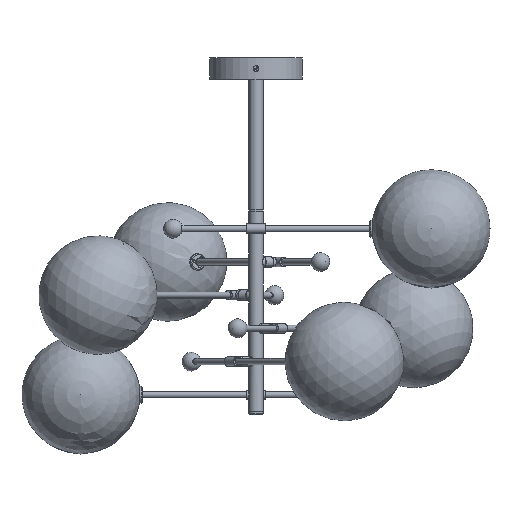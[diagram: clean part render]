
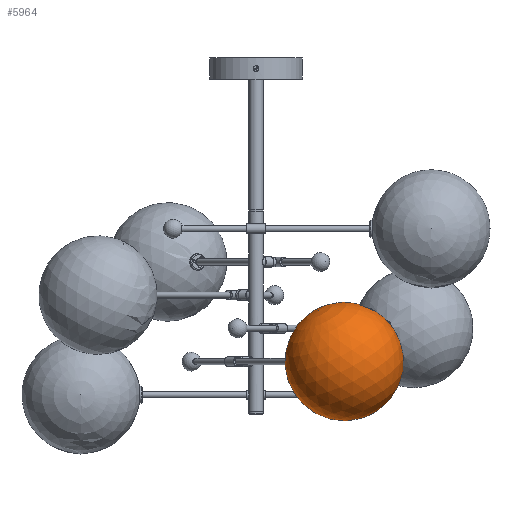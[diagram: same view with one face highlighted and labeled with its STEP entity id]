
A CAD part, left-side view. The second image highlights one B-rep face of the part: STEP entity #5964.
In plain terms, the highlighted spherical face has radius 125 mm.
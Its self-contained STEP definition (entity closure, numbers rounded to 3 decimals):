
#63=SPHERICAL_SURFACE('',#6502,125.);
#206=FACE_BOUND('',#1026,.T.);
#560=FACE_OUTER_BOUND('',#1025,.T.);
#1025=EDGE_LOOP('',(#4275,#4276));
#1026=EDGE_LOOP('',(#4277));
#2245=CIRCLE('',#6490,16.5);
#2253=CIRCLE('',#6503,125.);
#2724=VERTEX_POINT('',#10124);
#2731=VERTEX_POINT('',#10145);
#2732=VERTEX_POINT('',#10146);
#3324=EDGE_CURVE('',#2724,#2724,#2245,.T.);
#3333=EDGE_CURVE('',#2731,#2732,#2253,.T.);
#4275=ORIENTED_EDGE('',*,*,#3333,.T.);
#4276=ORIENTED_EDGE('',*,*,#3333,.F.);
#4277=ORIENTED_EDGE('',*,*,#3324,.T.);
#5964=ADVANCED_FACE('',(#560,#206),#63,.T.);
#6490=AXIS2_PLACEMENT_3D('',#10125,#7528,#7529);
#6502=AXIS2_PLACEMENT_3D('',#10144,#7553,#7554);
#6503=AXIS2_PLACEMENT_3D('',#10147,#7555,#7556);
#7528=DIRECTION('center_axis',(-0.866,-0.5,0.));
#7529=DIRECTION('ref_axis',(-0.481,0.832,-0.276));
#7553=DIRECTION('center_axis',(0.25,-0.433,-0.866));
#7554=DIRECTION('ref_axis',(-0.433,0.75,-0.5));
#7555=DIRECTION('center_axis',(-0.866,-0.5,0.));
#7556=DIRECTION('ref_axis',(0.433,-0.75,0.5));
#10124=CARTESIAN_POINT('',(-319.055,-137.855,199.557));
#10125=CARTESIAN_POINT('Origin',(-326.984,-124.121,195.));
#10144=CARTESIAN_POINT('Origin',(-434.29,-186.074,195.));
#10145=CARTESIAN_POINT('',(-403.04,-240.201,86.747));
#10146=CARTESIAN_POINT('',(-465.54,-131.948,303.253));
#10147=CARTESIAN_POINT('Origin',(-434.29,-186.074,195.));
